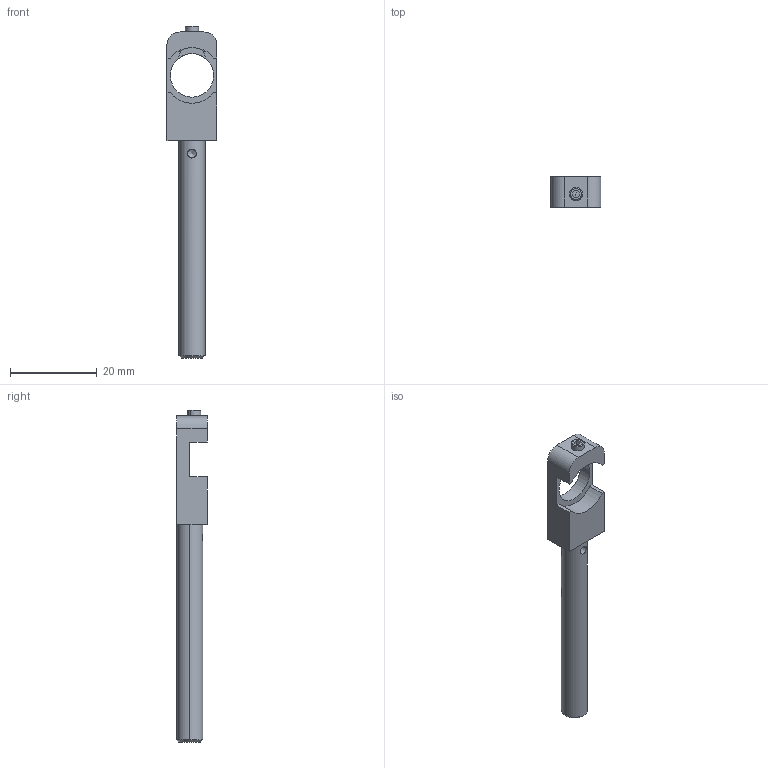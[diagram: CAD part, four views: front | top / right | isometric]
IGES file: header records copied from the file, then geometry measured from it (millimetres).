
Global section: file name: No Iges File Name specified; native system: AutoDesk Inventor R12.0; preprocessor: AutoDesk Inventor Iges Exporter R12.0; date: 20140311.171340; units: millimetre
Bounding box: 11.5 x 7 x 76.36 mm (x, y, z)
Volume: 2616.4 mm3; surface area: 2106.8 mm2
Topology: 1 solids, 4 shells, 66 faces, 164 edges, 104 vertices
Faces by surface type: plane 29, bspline 15, cylinder 10, cone 6, revolution 6
